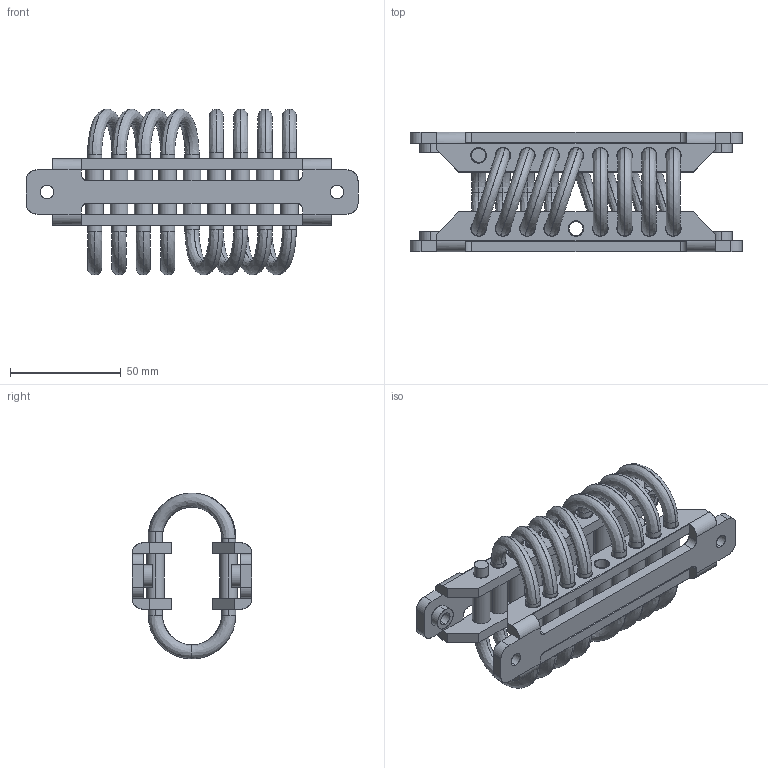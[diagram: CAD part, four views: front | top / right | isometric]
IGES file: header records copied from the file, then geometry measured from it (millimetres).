
Start section: SolidWorks IGES file using analytic representation for surfaces
Bounding box: 150 x 54.1 x 74.99 mm (x, y, z)
Surface area: 68900.5 mm2 (no closed solid volume)
Topology: 0 solids, 0 shells, 292 faces, 6784 edges, 6784 vertices
Faces by surface type: revolution 150, bspline 142
